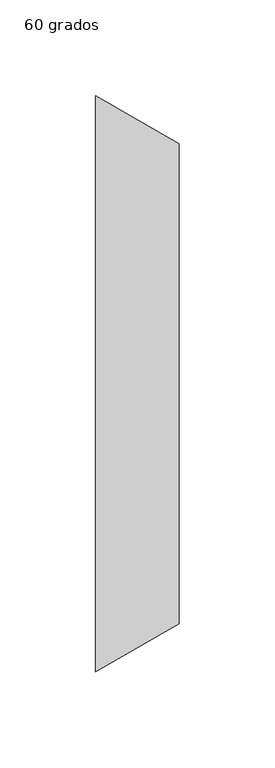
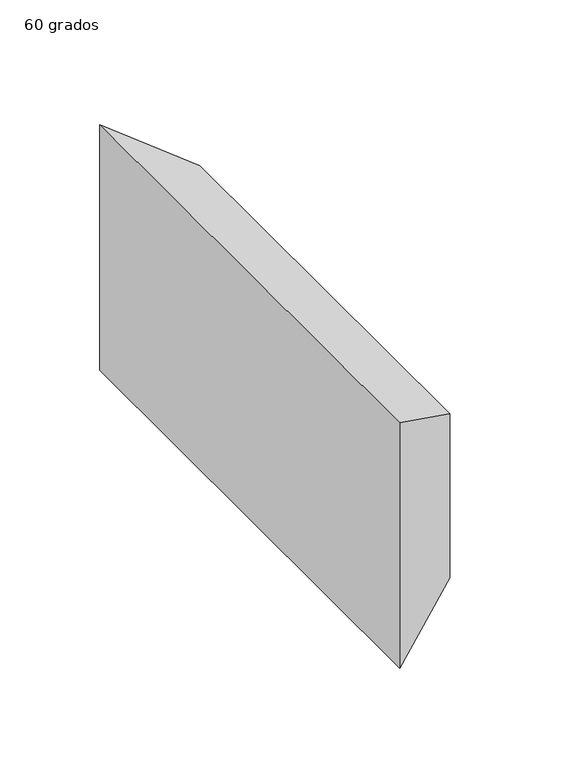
"""IFC4 building model written with IfcOpenShell, lengths in millimetres: duct fitting geometry, M_Transición rectangular - Ángulo : 60 grados."""

from ifc_helpers import new_model, si_unit, origin, place, context, project, spatial, faceted_brep, source, transform, mapped, element, save


def duct_fitting_60_grados_356a48ef(model_context):
    return source(origin(), model_context, "Body", "Brep", [
        faceted_brep([(43.3012702, -125.0, 50.0), (43.3012702, -125.0, -50.0), (43.3012702, 125.0, -50.0), (43.3012702, 125.0, 50.0), (0.0, -150.0, 75.0), (0.0, 150.0, 75.0), (0.0, 150.0, -75.0), (0.0, -150.0, -75.0)], [[[0, 1, 2, 3]], [[4, 5, 6, 7]], [[4, 7, 1, 0]], [[7, 6, 2, 1]], [[6, 5, 3, 2]], [[5, 4, 0, 3]]]),
    ])


if __name__ == "__main__":
    model = new_model("IFC4")
    model_context = context("Model", 3, world=origin())
    ifc_project = project(units=[si_unit("LENGTHUNIT", "METRE", prefix="MILLI")], contexts=[model_context])
    site = spatial("IfcSite", under=ifc_project)
    building = spatial("IfcBuilding", under=site)
    placement = place(None, origin())
    duct_fitting_60_grados_shape = duct_fitting_60_grados_356a48ef(model_context)
    element("IfcDuctFitting", 1, ObjectType="M_Transición rectangular - Ángulo : 60 grados", at=placement, inside=building, context=model_context, shape_type="MappedRepresentation", body=[
        mapped(duct_fitting_60_grados_shape, transform((0.0, 0.0, 0.0), x_axis=(1.0, 0.0, 0.0), y_axis=(0.0, 1.0, 0.0), z_axis=(0.0, 0.0, 1.0))),
    ])
    save(model, "model.ifc")
